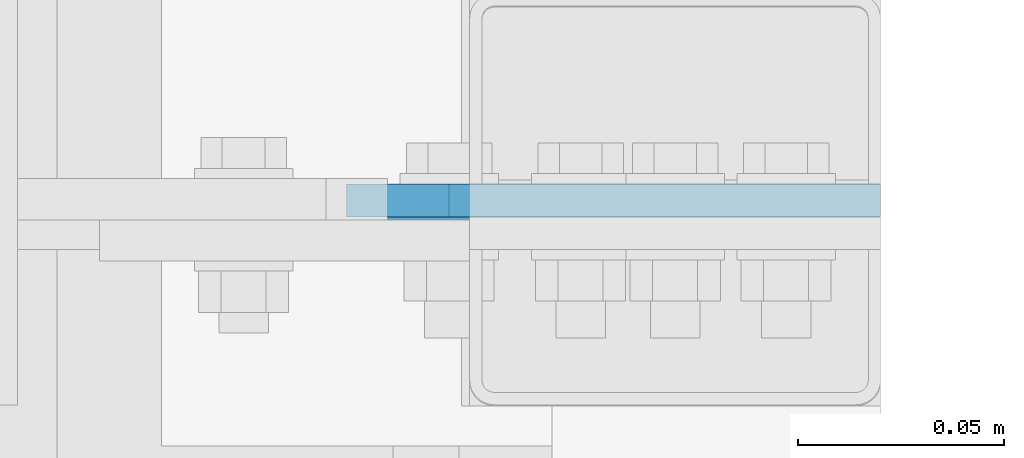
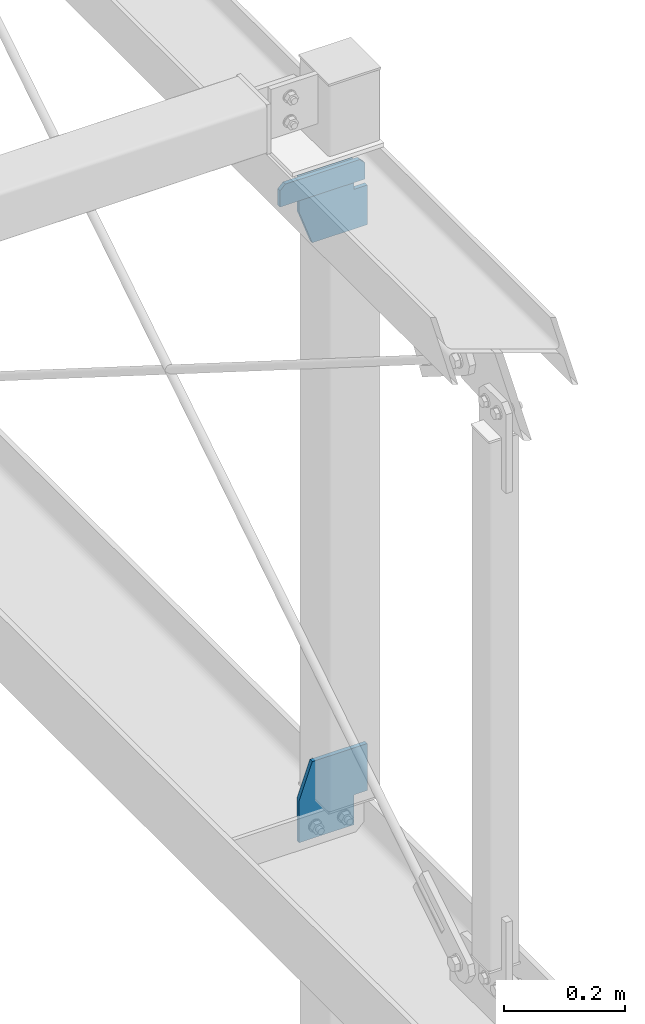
# One storey, part 170 of 271: 3 plates, 2 elements without a shape of their own.
"""IFC2X3 building model written with IfcOpenShell, lengths in millimetres."""

from ifc_helpers import new_model, si_unit, frame, origin_with_axes, place, context, subcontext, project, spatial, polyline, outline, extrude, material, type_object, element, aggregate, save


model = new_model("IFC2X3")

# Units and contexts
model_context = context("Model", 3, precision=1e-05, world=origin_with_axes())
body_context = subcontext(model_context, "Body", "Model", "MODEL_VIEW")
ifc_project = project(units=[si_unit("LENGTHUNIT", "METRE", prefix="MILLI"), si_unit("AREAUNIT", "SQUARE_METRE"), si_unit("VOLUMEUNIT", "CUBIC_METRE"), si_unit("MASSUNIT", "GRAM", prefix="KILO"), si_unit("TIMEUNIT", "SECOND"), si_unit("PLANEANGLEUNIT", "RADIAN"), si_unit("SOLIDANGLEUNIT", "STERADIAN"), si_unit("THERMODYNAMICTEMPERATUREUNIT", "DEGREE_CELSIUS"), si_unit("LUMINOUSINTENSITYUNIT", "LUMEN")], contexts=[model_context])

# Site, building, storey
site_placement = place(None, origin_with_axes())
site = spatial("IfcSite", under=ifc_project, at=site_placement, Name="Undefined", CompositionType="ELEMENT")
building_placement = place(site_placement, origin_with_axes())
building = spatial("IfcBuilding", under=site, at=building_placement, Name="Undefined", CompositionType="ELEMENT")
storey_placement = place(building_placement, origin_with_axes())
storey = spatial("IfcBuildingStorey", under=building, at=storey_placement, Name="Undefined", CompositionType="ELEMENT", Elevation=0.0)

# Assembly, plates
assembly_1_placement = place(storey_placement, origin_with_axes())
assembly_1 = element("IfcElementAssembly", 1, at=assembly_1_placement, inside=storey, AssemblyPlace="NOTDEFINED", PredefinedType="RIGID_FRAME")
ifc_material = material(Name="STEEL/S355JR")
plate_type_1 = type_object("IfcPlateType", Name="BL8*130", PredefinedType="NOTDEFINED")
plate_1_placement = place(assembly_1_placement, frame((12578.3756870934, 2799.05225536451, 19858.8499999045), z_axis=(0.0, 1.0, 0.0), x_axis=(0.0, 0.0, 1.0)))
plate_1 = element("IfcPlate", 2, at=plate_1_placement, type_object=plate_type_1, material=ifc_material, Name="BLACHA", ObjectType="BL8*130", context=body_context, shape_type="SweptSolid", body=[
    extrude(outline(polyline([(0.0, 25.0), (70.0, -8.66862137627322e-13), (140.0, -1.81543668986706e-12), (140.0, 105.0), (80.0, 105.0), (80.0, 130.0), (-3.5527136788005e-14, 130.0), (0.0, 25.0)])), frame((0.0, 0.0, -4.0), z_axis=(0.0, 0.0, 1.0), x_axis=(1.0, 0.0, 0.0)), (0.0, 0.0, 1.0), 8.0),
])
plate_2_placement = place(assembly_1_placement, frame((12578.3756870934, 2799.05211980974, 18811.8499999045), z_axis=(0.0, -1.0, 0.0), x_axis=(0.0, 0.0, -1.0)))
plate_2 = element("IfcPlate", 3, at=plate_2_placement, type_object=plate_type_1, material=ifc_material, Name="BLACHA", ObjectType="BL8*130", context=body_context, shape_type="SweptSolid", body=[
    extrude(outline(polyline([(0.0, 25.0), (70.0, -8.66862137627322e-13), (155.0, -2.06057393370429e-12), (155.0, 105.0), (94.9999999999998, 105.0), (94.9999999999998, 130.0), (-3.5527136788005e-14, 130.0), (0.0, 25.0)])), frame((0.0, 0.0, -4.0), z_axis=(0.0, 0.0, 1.0), x_axis=(1.0, 0.0, 0.0)), (0.0, 0.0, 1.0), 8.0),
])
aggregate(assembly_1, [plate_1, plate_2])

# Assembly, plate
assembly_2_placement = place(storey_placement, origin_with_axes())
assembly_2 = element("IfcElementAssembly", 4, at=assembly_2_placement, inside=storey, AssemblyPlace="NOTDEFINED", PredefinedType="RIGID_FRAME")
plate_type_2 = type_object("IfcPlateType", Name="BL8*43", PredefinedType="NOTDEFINED")
plate_3_placement = place(assembly_2_placement, frame((12537.3756870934, 2791.05211980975, 19958.8499999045), z_axis=(0.0, 1.0, 0.0), x_axis=(0.0, 0.0, 1.0)))
plate_3 = element("IfcPlate", 5, at=plate_3_placement, type_object=plate_type_2, material=ifc_material, Name="BLACHA", ObjectType="BL8*43", context=body_context, shape_type="SweptSolid", body=[
    extrude(outline(polyline([(0.0, 0.0), (32.8499984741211, 0.0), (42.8499984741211, 10.0), (42.8499984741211, 152.0), (32.8499984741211, 162.0), (0.0, 162.0), (0.0, 0.0)])), frame((0.0, 0.0, -4.0), z_axis=(0.0, 0.0, 1.0), x_axis=(1.0, 0.0, 0.0)), (0.0, 0.0, 1.0), 8.0),
])
aggregate(assembly_2, [plate_3])

save(model, "model.ifc")
